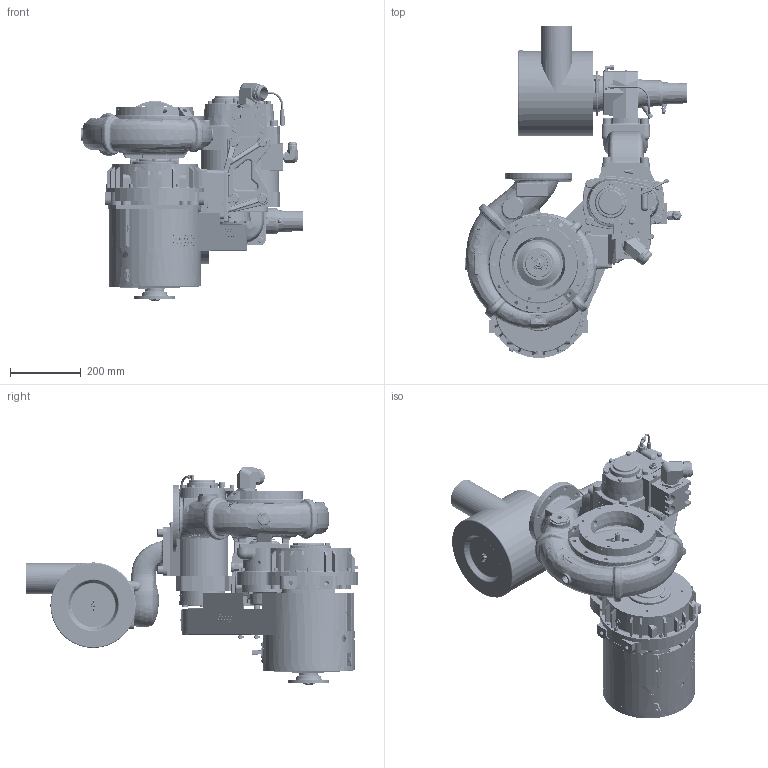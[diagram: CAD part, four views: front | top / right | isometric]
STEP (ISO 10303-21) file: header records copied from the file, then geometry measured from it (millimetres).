
FILE_DESCRIPTION((''),'2;1');
FILE_NAME('DKD0414','2022-12-01T',('SSullivan'),(''),'PRO/ENGINEER BY PARAMETRIC TECHNOLOGY CORPORATION, 2013150','PRO/ENGINEER BY PARAMETRIC TECHNOLOGY CORPORATION, 2013150','');
FILE_SCHEMA(('CONFIG_CONTROL_DESIGN'));
Length unit declared in the file: inch
Products named in the file (1): DKD0414
Bounding box: 630.85 x 941.28 x 617.14 mm (x, y, z)
Surface area: 4109571 mm2 (no closed solid volume)
Topology: 0 solids, 381 shells, 4699 faces, 17483 edges, 12747 vertices
Faces by surface type: plane 1328, cylinder 1316, bspline 1127, cone 623, torus 234, sphere 59, extrusion 12
Entity records: 252895 total; most frequent: CARTESIAN_POINT 121439, ORIENTED_EDGE 26924, DIRECTION 22877, EDGE_CURVE 17403, VERTEX_POINT 12746, AXIS2_PLACEMENT_3D 8649, B_SPLINE_CURVE_WITH_KNOTS 6758, VECTOR 5579
